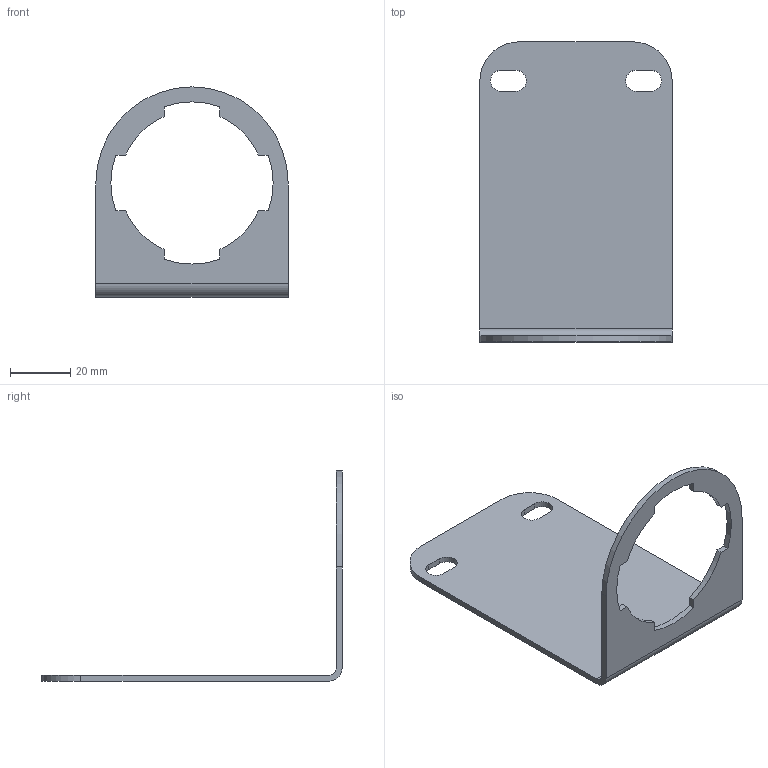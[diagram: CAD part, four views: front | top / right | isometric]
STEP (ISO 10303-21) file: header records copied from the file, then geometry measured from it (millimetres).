
FILE_DESCRIPTION(/* description */ ('STEP AP203'),/* implementation_level */ '2;1');
FILE_NAME(/* name */ 'BW48-00S.step',/* time_stamp */ '2026-05-05T09:16:44+02:00',/* author */ (''),/* organization */ (''),/* preprocessor_version */ 'ST-DEVELOPER v20.1',/* originating_system */ 'Autodesk Translation Framework v15.8.0.0',/* authorisation */ '');
FILE_SCHEMA (('AUTOMOTIVE_DESIGN { 1 0 10303 214 3 1 1 }'));
Length unit declared in the file: millimetre
Products named in the file (1): SN-4574-01 L TYPE BRACKET 20 SERIES
Bounding box: 64 x 100 x 70 mm (x, y, z)
Volume: 15920.2 mm3; surface area: 17245.1 mm2
Topology: 1 solids, 1 shells, 36 faces, 102 edges, 68 vertices
Faces by surface type: plane 19, cylinder 17
Entity records: 1225 total; most frequent: DIRECTION 210, CARTESIAN_POINT 207, ORIENTED_EDGE 204, EDGE_CURVE 102, AXIS2_PLACEMENT_3D 71, LINE 68, VECTOR 68, VERTEX_POINT 68
